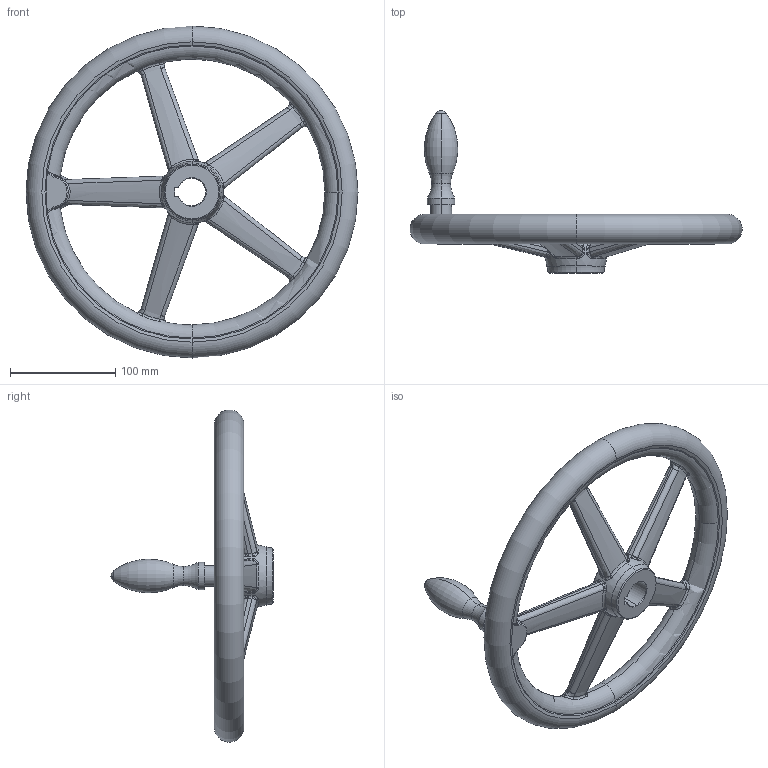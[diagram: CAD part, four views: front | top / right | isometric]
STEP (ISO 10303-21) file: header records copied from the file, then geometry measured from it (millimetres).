
FILE_DESCRIPTION (( 'STEP AP203' ), '1' );
FILE_NAME ('din950_f3_315x26.step', '2010-03-23T10:25:59', ( '_' ), ( '_' ), 'SwSTEP 2.0', 'SolidWorks 2010', '' );
FILE_SCHEMA (( 'CONFIG_CONTROL_DESIGN' ));
Length unit declared in the file: millimetre
Products named in the file (1): din950_f3_315x26
Bounding box: 314.89 x 154.5 x 314.89 mm (x, y, z)
Volume: 891471.1 mm3; surface area: 135574.4 mm2
Topology: 1 solids, 1 shells, 286 faces, 710 edges, 373 vertices
Faces by surface type: bspline 208, torus 26, plane 19, cone 18, cylinder 13, sphere 2
Entity records: 53934 total; most frequent: CARTESIAN_POINT 48616, ORIENTED_EDGE 1332, DIRECTION 688, EDGE_CURVE 666, B_SPLINE_CURVE_WITH_KNOTS 383, VERTEX_POINT 373, AXIS2_PLACEMENT_3D 326, EDGE_LOOP 289
